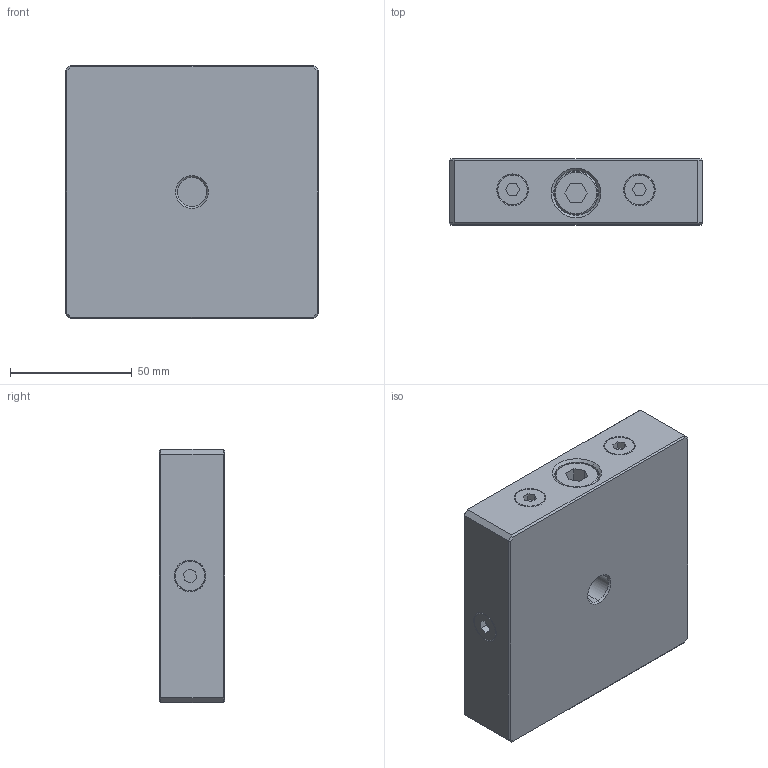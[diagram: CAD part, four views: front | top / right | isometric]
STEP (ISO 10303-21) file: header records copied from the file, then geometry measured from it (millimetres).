
FILE_DESCRIPTION (( 'STEP AP203' ), '1' );
FILE_NAME ('45600.STEP', '2019-04-08T06:24:11', ( 'Localadmin' ), ( '' ), 'SwSTEP 2.0', 'SolidWorks 2015', '' );
FILE_SCHEMA (( 'CONFIG_CONTROL_DESIGN' ));
Length unit declared in the file: millimetre
Products named in the file (1): 45600
Bounding box: 104 x 27 x 104 mm (x, y, z)
Volume: 245723.5 mm3; surface area: 51309.9 mm2
Topology: 9 solids, 9 shells, 212 faces, 498 edges, 303 vertices
Faces by surface type: plane 98, cylinder 62, cone 44, torus 8
Entity records: 6797 total; most frequent: CARTESIAN_POINT 1880, DIRECTION 1002, ORIENTED_EDGE 996, EDGE_CURVE 498, AXIS2_PLACEMENT_3D 353, VERTEX_POINT 303, VECTOR 296, LINE 296
